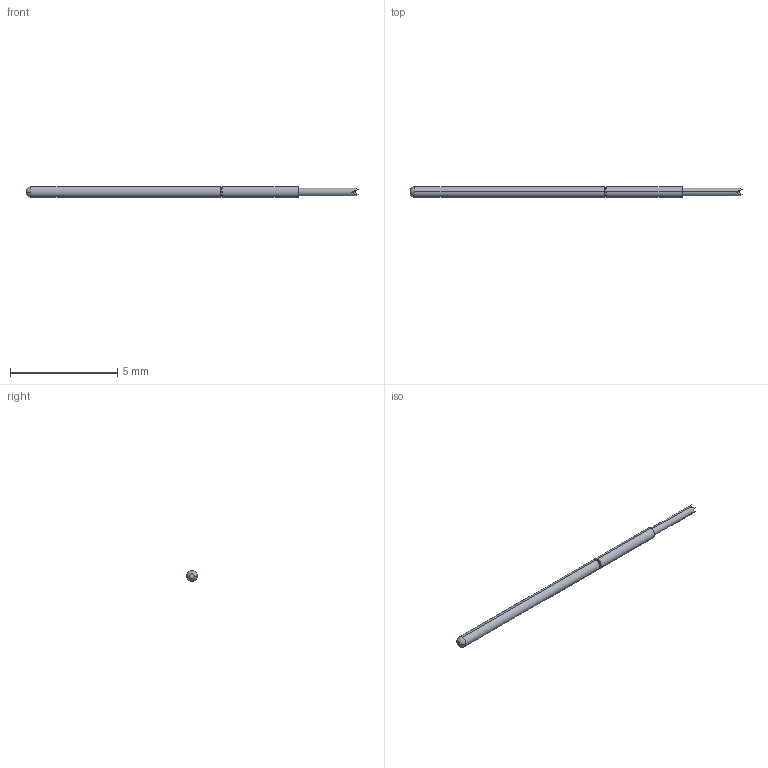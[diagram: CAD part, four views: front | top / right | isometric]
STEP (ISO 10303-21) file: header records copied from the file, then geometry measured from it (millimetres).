
FILE_DESCRIPTION (( 'STEP AP203' ), '1' );
FILE_NAME ('100426-005-942 (REST).STEP', '2023-01-03T09:08:49', ( '' ), ( '' ), 'SwSTEP 2.0', 'SolidWorks 2022', '' );
FILE_SCHEMA (( 'CONFIG_CONTROL_DESIGN' ));
Length unit declared in the file: inch
Products named in the file (1): 100426-005-942 (REST)
Bounding box: 15.49 x 0.51 x 0.51 mm (x, y, z)
Volume: 2.8 mm3; surface area: 23.7 mm2
Topology: 1 solids, 1 shells, 36 faces, 78 edges, 43 vertices
Faces by surface type: plane 14, cylinder 8, torus 8, cone 4, sphere 2
Entity records: 1035 total; most frequent: DIRECTION 182, CARTESIAN_POINT 180, ORIENTED_EDGE 152, AXIS2_PLACEMENT_3D 77, EDGE_CURVE 76, VERTEX_POINT 43, CIRCLE 40, EDGE_LOOP 37
